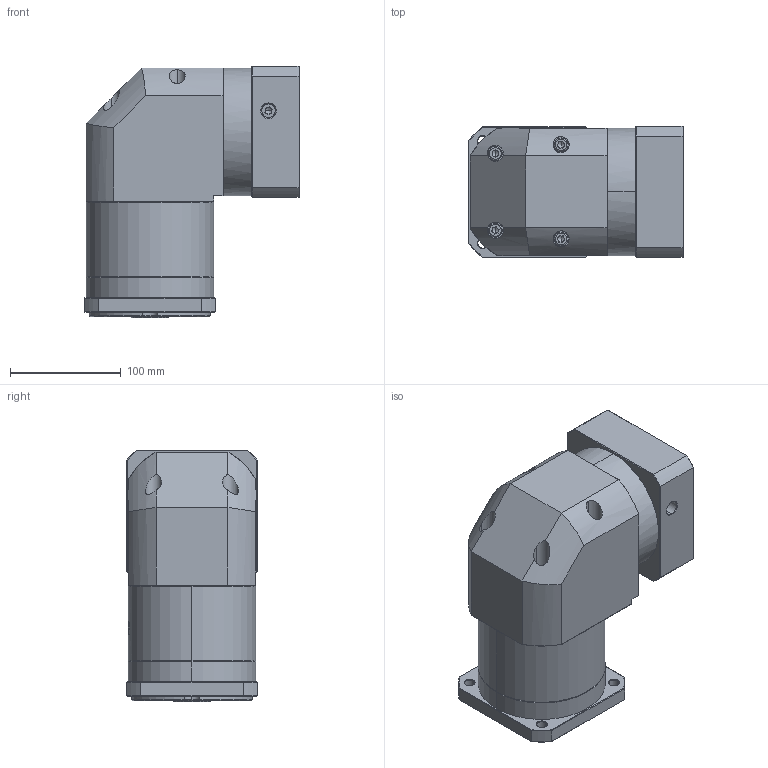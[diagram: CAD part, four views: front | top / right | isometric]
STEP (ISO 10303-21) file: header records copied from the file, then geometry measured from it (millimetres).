
FILE_DESCRIPTION (( 'STEP AP214' ), '1' );
FILE_NAME ('ZFR120A-K25-L2-P2-22-95-115-M8.step', '2023-08-27T08:15:39', ( '' ), ( '' ), 'SwSTEP 2.0', 'SolidWorks 2016', '' );
FILE_SCHEMA (( 'AUTOMOTIVE_DESIGN' ));
Length unit declared in the file: millimetre
Products named in the file (1): ZFR120A-K25-L2-P2-22-95-115-M8
Bounding box: 193.9 x 118 x 226.5 mm (x, y, z)
Volume: 3145233.6 mm3; surface area: 252130.7 mm2
Topology: 6 solids, 6 shells, 2210 faces, 5832 edges, 3727 vertices
Faces by surface type: plane 1054, bspline 416, cylinder 401, cone 331, torus 8
Entity records: 118781 total; most frequent: CARTESIAN_POINT 45113, ORIENTED_EDGE 11608, DIRECTION 8436, EDGE_CURVE 5804, VERTEX_POINT 3727, LINE 3106, VECTOR 3106, AXIS2_PLACEMENT_3D 2665
